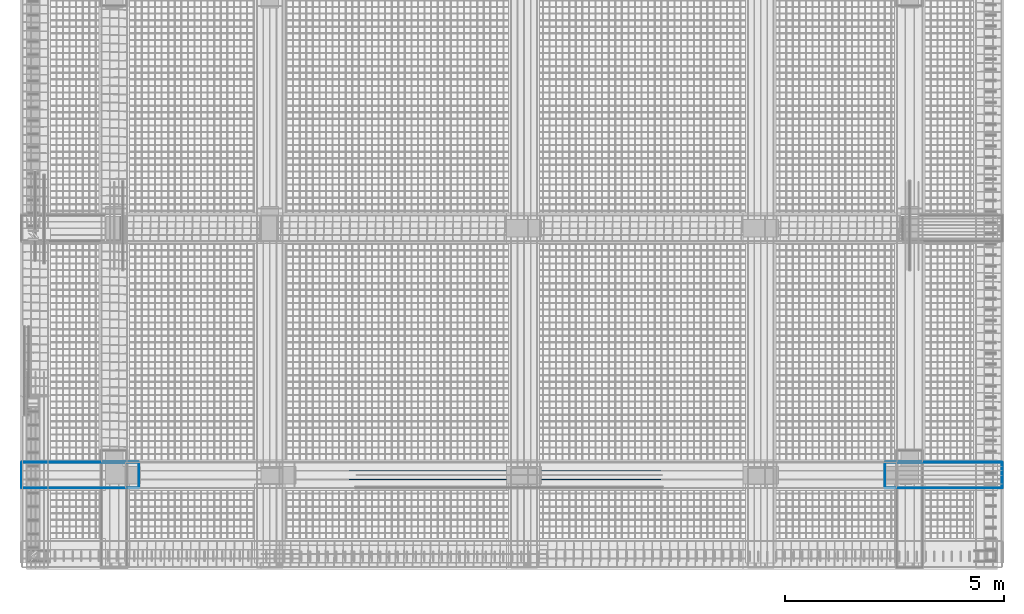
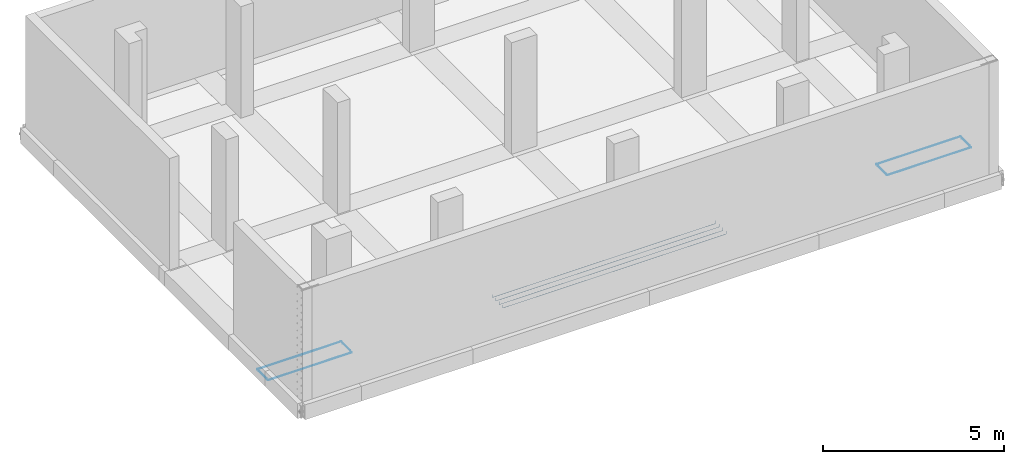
# One storey, part 6 of 9: 2 reinforcing bars.
"""IFC4 building model written with IfcOpenShell, lengths in metres."""

from ifc_helpers import new_model, entity, si_unit, origin_with_axes, place, context, project, spatial, source, transform, mapped, element, save


model = new_model("IFC4")

# Units and contexts
model_context = context("Model", 3, precision=1e-05, world=origin_with_axes())
ifc_project = project(units=[si_unit("LENGTHUNIT", "METRE"), si_unit("AREAUNIT", "SQUARE_METRE"), si_unit("VOLUMEUNIT", "CUBIC_METRE"), si_unit("MASSUNIT", "GRAM", prefix="KILO"), si_unit("TIMEUNIT", "SECOND"), si_unit("PLANEANGLEUNIT", "RADIAN"), si_unit("SOLIDANGLEUNIT", "STERADIAN"), si_unit("THERMODYNAMICTEMPERATUREUNIT", "DEGREE_CELSIUS")], contexts=[model_context])

# Site, building, storey
placement_1 = place(None, origin_with_axes())
site = spatial("IfcSite", under=ifc_project, at=placement_1, Name="Italia", CompositionType="ELEMENT")
building = spatial("IfcBuilding", under=site, at=placement_1, Name="Palazzina", CompositionType="ELEMENT")
storey = spatial("IfcBuildingStorey", under=building, at=placement_1, Name="Storey 0", CompositionType="ELEMENT", Elevation=0.0)

# Reinforcing bars
shared_shape_1 = source(origin_with_axes(), model_context, "Body", "AdvancedSweptSolid", [
    entity("IfcSweptDiskSolid", entity("IfcIndexedPolyCurve", entity("IfcCartesianPointList3D", [[5.55991, -0.092, -0.344], [5.55991, -0.092, -0.434], [5.56067, -0.092, -0.437827], [5.56284, -0.092, -0.441071], [5.56609, -0.092, -0.443239], [5.56991, -0.092, -0.444], [5.98573, -0.092, -0.444], [12.2441, -0.092, -0.444], [12.6599, -0.092, -0.444], [12.6637, -0.092, -0.443239], [12.667, -0.092, -0.441071], [12.6692, -0.092, -0.437827], [12.6699, -0.092, -0.434], [12.6699, -0.092, -0.344]]), [entity("IfcLineIndex", [1, 2]), entity("IfcLineIndex", [2, 3]), entity("IfcLineIndex", [3, 4]), entity("IfcLineIndex", [4, 5]), entity("IfcLineIndex", [5, 6]), entity("IfcLineIndex", [6, 7]), entity("IfcLineIndex", [7, 8]), entity("IfcLineIndex", [8, 9]), entity("IfcLineIndex", [9, 10]), entity("IfcLineIndex", [10, 11]), entity("IfcLineIndex", [11, 12]), entity("IfcLineIndex", [12, 13]), entity("IfcLineIndex", [13, 14])], False), 0.008),
])
placement_2 = place(placement_1, origin_with_axes())
reinforcing_bar_1_placement = place(placement_2, origin_with_axes())
element("IfcReinforcingBar", 1, at=reinforcing_bar_1_placement, inside=storey, BarLength=7.30121, CrossSectionArea=0.00020106, NominalDiameter=0.016, context=model_context, shape_type="MappedRepresentation", body=[
    mapped(shared_shape_1, transform((0.0, 0.584, 0.0), x_axis=(1.0, 0.0, 0.0), y_axis=(0.0, 1.0, 0.0), z_axis=(0.0, 0.0, 1.0), scale=1.0)),
    mapped(shared_shape_1, transform((0.0, 0.0, 0.0), x_axis=(1.0, 0.0, 0.0), y_axis=(0.0, 1.0, 0.0), z_axis=(0.0, 0.0, 1.0), scale=1.0)),
    mapped(shared_shape_1, transform((0.0, 0.392, 0.0), x_axis=(1.0, 0.0, 0.0), y_axis=(0.0, 1.0, 0.0), z_axis=(0.0, 0.0, 1.0), scale=1.0)),
    mapped(shared_shape_1, transform((0.0, 0.192, 0.0), x_axis=(1.0, 0.0, 0.0), y_axis=(0.0, 1.0, 0.0), z_axis=(0.0, 0.0, 1.0), scale=1.0)),
])
shared_shape_2 = source(origin_with_axes(), model_context, "Body", "AdvancedSweptSolid", [
    entity("IfcSweptDiskSolid", entity("IfcIndexedPolyCurve", entity("IfcCartesianPointList3D", [[17.79, -0.00600001, -0.244], [17.79, 0.484, -0.244], [17.7908, 0.487827, -0.244], [17.7929, 0.491071, -0.244], [17.7962, 0.493239, -0.244], [17.8, 0.494, -0.244], [20.45, 0.494, -0.244], [20.4538, 0.493239, -0.244], [20.4571, 0.491071, -0.244], [20.4592, 0.487827, -0.244], [20.46, 0.484, -0.244], [20.46, -0.00600001, -0.244]]), [entity("IfcLineIndex", [1, 2]), entity("IfcLineIndex", [2, 3]), entity("IfcLineIndex", [3, 4]), entity("IfcLineIndex", [4, 5]), entity("IfcLineIndex", [5, 6]), entity("IfcLineIndex", [6, 7]), entity("IfcLineIndex", [7, 8]), entity("IfcLineIndex", [8, 9]), entity("IfcLineIndex", [9, 10]), entity("IfcLineIndex", [10, 11]), entity("IfcLineIndex", [11, 12])], False), 0.006),
])
reinforcing_bar_2_placement = place(placement_2, origin_with_axes())
element("IfcReinforcingBar", 2, at=reinforcing_bar_2_placement, inside=storey, BarLength=3.66121, CrossSectionArea=0.0001131, NominalDiameter=0.012, context=model_context, shape_type="MappedRepresentation", body=[
    mapped(shared_shape_2, transform((0.0, 0.4, -0.5), x_axis=(1.0, 0.0, 0.0), y_axis=(0.0, -1.0, 0.0), z_axis=(0.0, 0.0, -1.0), scale=1.0)),
    mapped(shared_shape_2, transform((0.0, 0.0, 0.0), x_axis=(1.0, 0.0, 0.0), y_axis=(0.0, 1.0, 0.0), z_axis=(0.0, 0.0, 1.0), scale=1.0)),
    mapped(shared_shape_2, transform((-19.7, 0.4, -0.5), x_axis=(1.0, 0.0, 0.0), y_axis=(0.0, -1.0, 0.0), z_axis=(0.0, 0.0, -1.0), scale=1.0)),
    mapped(shared_shape_2, transform((-19.7, 0.0, 0.0), x_axis=(1.0, 0.0, 0.0), y_axis=(0.0, 1.0, 0.0), z_axis=(0.0, 0.0, 1.0), scale=1.0)),
])

save(model, "model.ifc")
